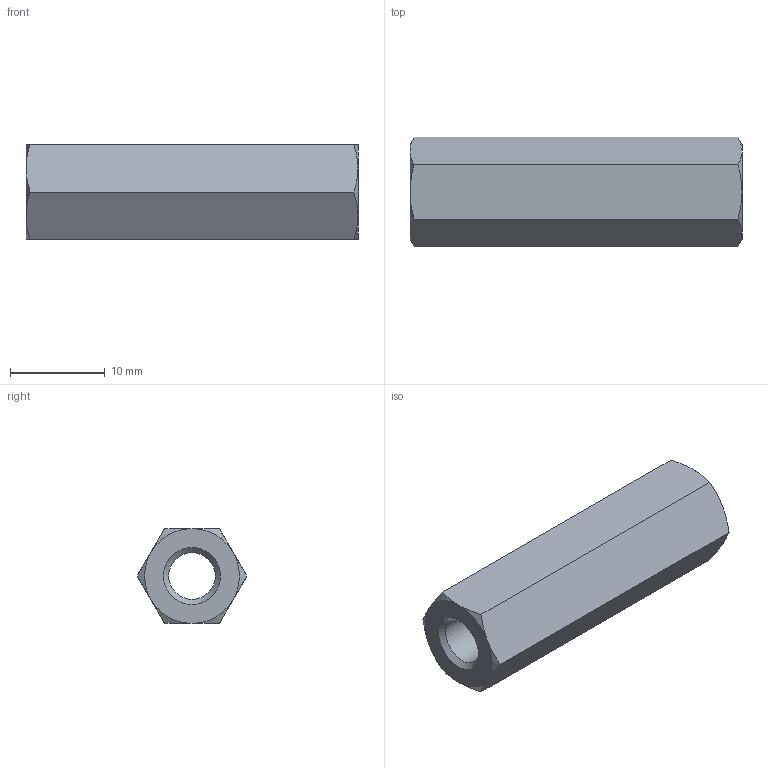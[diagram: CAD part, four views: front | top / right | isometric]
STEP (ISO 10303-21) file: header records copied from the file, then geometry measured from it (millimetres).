
FILE_DESCRIPTION( ( 'STEP AP203' ), '1' );
FILE_NAME( 'C:/Temp/Ganter_Step_05_03_2020/data/3_2/gn6220/gn6220_ni/Stainless Steel-Spacer GN 6220-NI-M6-35-A.stp', '2020-03-13T05:43:03', ( 'License CC BY-ND 4.0' ), ( 'CADENAS' ), ' ', 'PARTsolutions', ' ' );
FILE_SCHEMA( ( 'CONFIG_CONTROL_DESIGN' ) );
Length unit declared in the file: millimetre
Products named in the file (1): _Stainless Steel-Spacer GN 6220-NI-M6-35-A
Bounding box: 35 x 11.55 x 10 mm (x, y, z)
Volume: 2359.5 mm3; surface area: 1871.2 mm2
Topology: 1 solids, 1 shells, 23 faces, 49 edges, 28 vertices
Faces by surface type: cone 14, plane 8, cylinder 1
Full cylindrical faces by diameter (mm): 4.917 x1
Entity records: 712 total; most frequent: CARTESIAN_POINT 218, ORIENTED_EDGE 92, DIRECTION 86, EDGE_CURVE 46, AXIS2_PLACEMENT_3D 40, EDGE_LOOP 28, VERTEX_POINT 28, FACE_OUTER_BOUND 24
